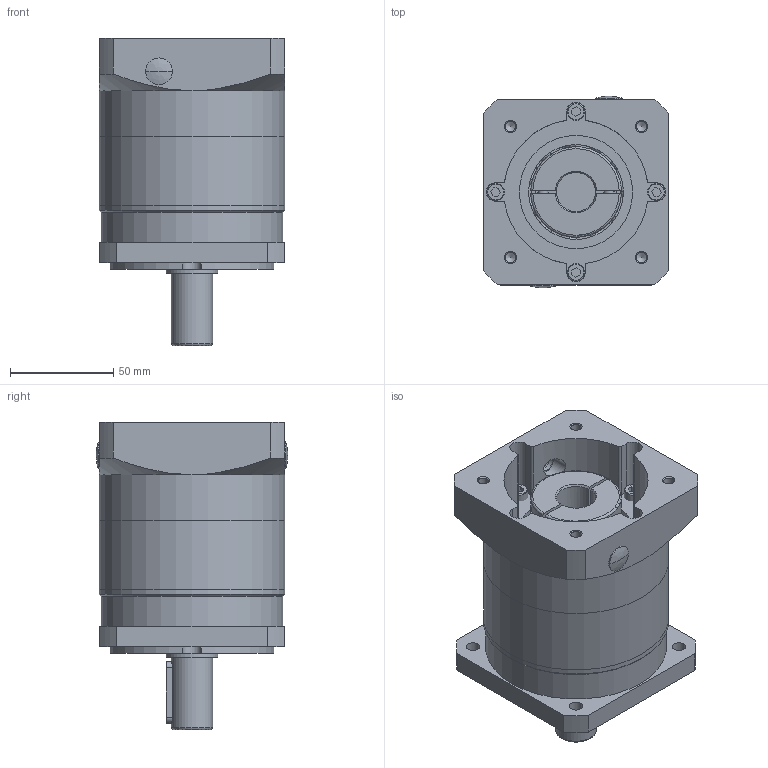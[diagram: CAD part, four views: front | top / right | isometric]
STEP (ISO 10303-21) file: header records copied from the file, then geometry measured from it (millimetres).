
FILE_DESCRIPTION(/* description */ (''),/* implementation_level */ '2;1');
FILE_NAME(/* name */ 'NA-090-L1(19-70-90-M6)(输出轴Φ20）.stp',/* time_stamp */ '2021-11-24T14:33:49+08:00',/* author */ (''),/* organization */ (''),/* preprocessor_version */ 'ST-DEVELOPER v16',/* originating_system */ 'SIEMENS PLM Software NX 10.0',/* authorisation */ '');
FILE_SCHEMA (('AP203_CONFIGURATION_CONTROLLED_3D_DESIGN_OF_MECHANICAL_PARTS_AND_ASSEMBLIES_MIM_LF { 1 0 10303 403 2 1 2}'));
Length unit declared in the file: millimetre
Products named in the file (1): 25BCED220ghi
Bounding box: 90 x 93 x 149.1 mm (x, y, z)
Volume: 547172.5 mm3; surface area: 168668.4 mm2
Topology: 20 solids, 20 shells, 889 faces, 2535 edges, 1684 vertices
Faces by surface type: plane 292, cylinder 244, sphere 160, torus 108, cone 51, bspline 34
Full cylindrical faces by diameter (mm): 4.2 x8, 5 x9, 5.5 x4, 6.5 x4, 9 x4, 10 x2, 19 x1, 20 x1, 25 x1, 28 x1, 37 x1, 38 x2, 39 x1, 42 x1, 48 x1, 52 x1, 55 x2, 62 x1, 65 x1, 72 x2, 88 x1, 90 x3
Entity records: 34457 total; most frequent: CARTESIAN_POINT 11942, ORIENTED_EDGE 4780, DIRECTION 4597, EDGE_CURVE 2390, AXIS2_PLACEMENT_3D 2002, VERTEX_POINT 1642, CIRCLE 1147, EDGE_LOOP 1103
